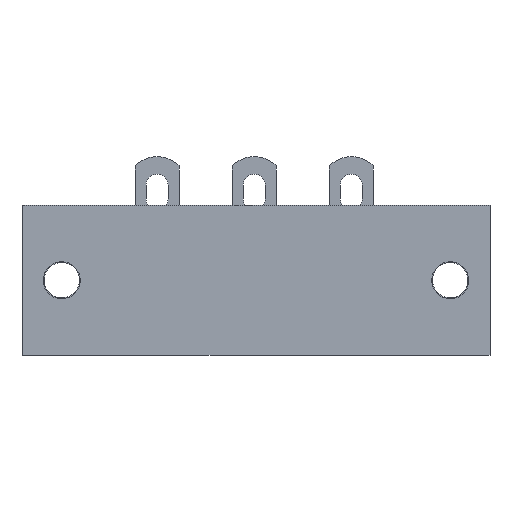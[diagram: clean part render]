
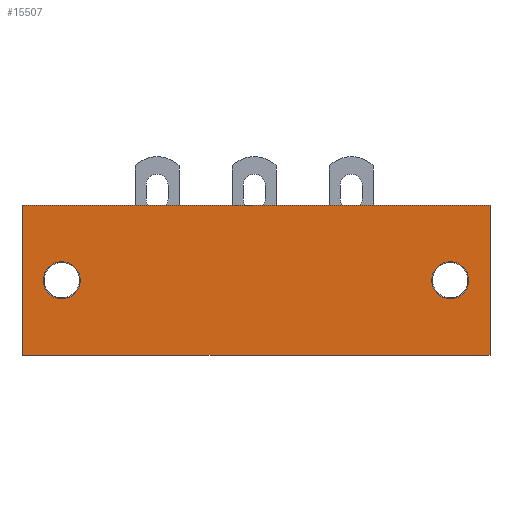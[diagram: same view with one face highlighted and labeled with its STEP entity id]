
A CAD part, front view. The second image highlights one B-rep face of the part: STEP entity #15507.
In plain terms, the highlighted planar face has unit normal (0, -1, 0).
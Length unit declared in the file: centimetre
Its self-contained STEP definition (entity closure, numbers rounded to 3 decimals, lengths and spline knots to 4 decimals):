
#908=VECTOR('',#16675,1.);
#1426=VECTOR('',#17511,1.);
#2215=VECTOR('',#19088,1.);
#2216=VECTOR('',#19089,1.);
#2654=LINE('',#20680,#908);
#3172=LINE('',#22583,#1426);
#3961=LINE('',#24663,#2215);
#3962=LINE('',#24664,#2216);
#4413=VERTEX_POINT('',#20681);
#4414=VERTEX_POINT('',#20682);
#4425=VERTEX_POINT('',#20706);
#4892=VERTEX_POINT('',#22584);
#4893=VERTEX_POINT('',#22585);
#4904=VERTEX_POINT('',#22609);
#5595=CIRCLE('',#24852,0.21);
#5643=CIRCLE('',#25094,0.21);
#6347=EDGE_CURVE('',#4413,#4414,#2654,.T.);
#6359=EDGE_CURVE('',#4425,#4425,#5595,.T.);
#7034=EDGE_CURVE('',#4892,#4893,#3172,.T.);
#7046=EDGE_CURVE('',#4904,#4904,#5643,.T.);
#8115=EDGE_CURVE('',#4893,#4413,#3961,.T.);
#8116=EDGE_CURVE('',#4414,#4892,#3962,.T.);
#12665=ORIENTED_EDGE('',*,*,#6359,.T.);
#12666=ORIENTED_EDGE('',*,*,#7046,.T.);
#12667=ORIENTED_EDGE('',*,*,#8115,.T.);
#12668=ORIENTED_EDGE('',*,*,#6347,.T.);
#12669=ORIENTED_EDGE('',*,*,#8116,.T.);
#12670=ORIENTED_EDGE('',*,*,#7034,.T.);
#13701=EDGE_LOOP('',(#12665));
#13702=EDGE_LOOP('',(#12666));
#13703=EDGE_LOOP('',(#12667,#12668,#12669,#12670));
#14653=FACE_BOUND('',#13701,.T.);
#14654=FACE_BOUND('',#13702,.T.);
#14655=FACE_BOUND('',#13703,.T.);
#15507=ADVANCED_FACE('',(#14653,#14654,#14655),#16074,.T.);
#16074=PLANE('',#25607);
#16675=DIRECTION('',(0.,0.,1.));
#16693=DIRECTION('',(0.,1.,0.));
#16694=DIRECTION('',(0.21,0.,0.));
#17511=DIRECTION('',(0.,0.,-1.));
#17529=DIRECTION('',(0.,1.,0.));
#17530=DIRECTION('',(-0.21,0.,0.));
#19087=DIRECTION('',(0.,-1.,0.));
#19088=DIRECTION('',(1.,0.,0.));
#19089=DIRECTION('',(-1.,0.,0.));
#20680=CARTESIAN_POINT('',(3.3,0.,0.85));
#20681=CARTESIAN_POINT('',(3.3,0.,-0.85));
#20682=CARTESIAN_POINT('',(3.3,0.,0.85));
#20705=CARTESIAN_POINT('',(2.85,0.,0.));
#20706=CARTESIAN_POINT('',(2.64,0.,0.));
#22583=CARTESIAN_POINT('',(-2.,0.,-0.85));
#22584=CARTESIAN_POINT('',(-2.,0.,0.85));
#22585=CARTESIAN_POINT('',(-2.,0.,-0.85));
#22608=CARTESIAN_POINT('',(-1.55,0.,0.));
#22609=CARTESIAN_POINT('',(-1.34,0.,0.));
#24662=CARTESIAN_POINT('',(0.,0.,0.));
#24663=CARTESIAN_POINT('',(0.,0.,-0.85));
#24664=CARTESIAN_POINT('',(-1.1,0.,0.85));
#24852=AXIS2_PLACEMENT_3D('',#20705,#16693,#16694);
#25094=AXIS2_PLACEMENT_3D('',#22608,#17529,#17530);
#25607=AXIS2_PLACEMENT_3D('',#24662,#19087,$);
